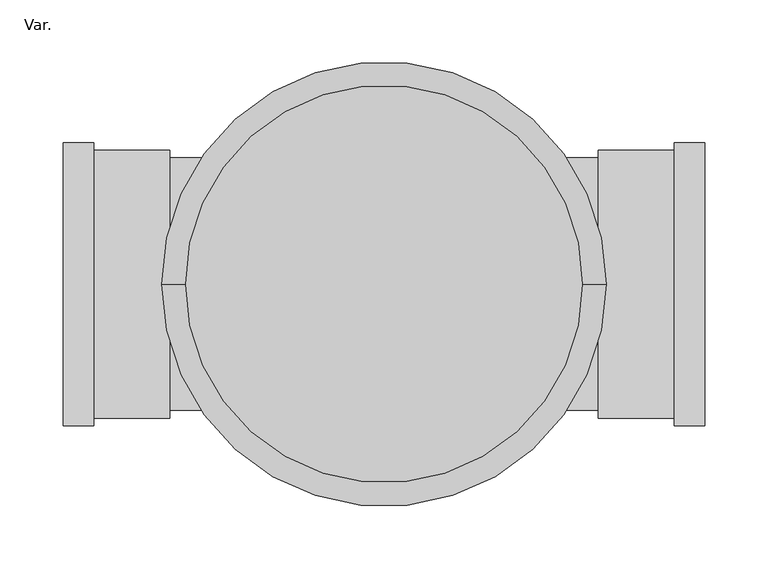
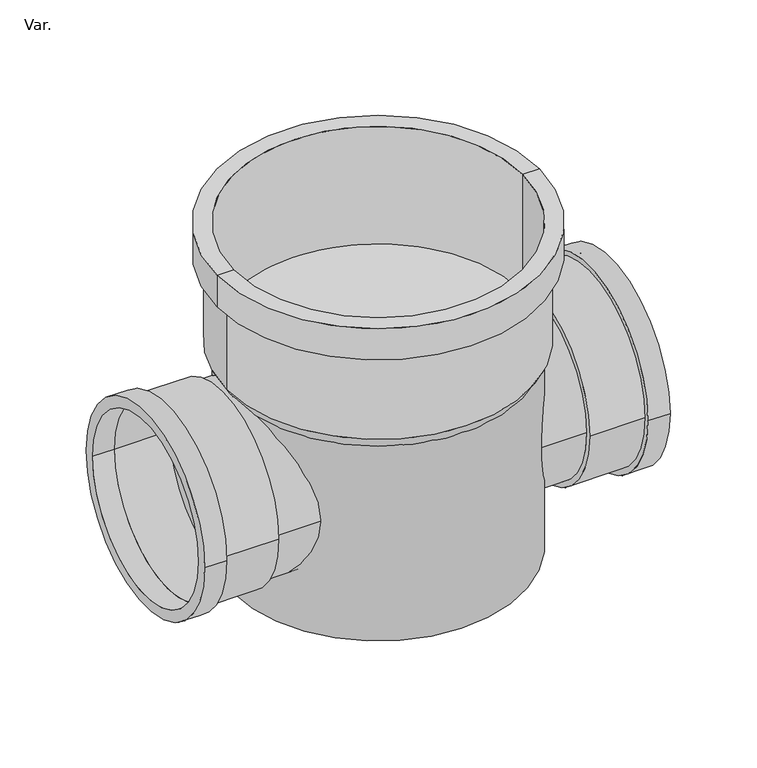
"""IFC4 building model written with IfcOpenShell, lengths in millimetres: pipe fitting geometry, NLRS-90-PIF_Wavin PVC Buitenriolering Inspectieput 315 : Var.."""

from ifc_helpers import new_model, si_unit, point, frame, frame_2d, origin, origin_with_axes, origin_2d, place, context, project, spatial, polyline, circle_curve, trimmed, segment, composite_curve, outline, extrude, source, transform, mapped, element, save
from ifc_brep_helpers import plane_surface, cylinder_surface, revolved_surface, advanced_brep


def var_a019f359(model_context):
    return source(origin(), model_context, "Body", "SolidModel", [
        advanced_brep(
        [(157.5, 0.0, 373.0), (-157.5, 0.0, 373.0), (-157.5, 0.0, 224.6632088), (157.5, 0.0, 224.6632088), (175.9, 0.0, 373.0), (-175.9, 0.0, 373.0), (175.9, 0.0, 337.0), (-175.9, 0.0, 337.0), (165.2, 0.0, 337.0), (-165.2, 0.0, 337.0), (165.2, 0.0, 238.0), (-165.2, 0.0, 238.0)],
        [
            (0, 1, circle_curve(frame((0.0, 0.0, 373.0), z_axis=(0.0, 0.0, 1.0), x_axis=(-1.0, 0.0, 0.0)), 157.5)),
            (1, 2),
            (2, 3, circle_curve(frame((0.0, 0.0, 224.6632088), z_axis=(0.0, 0.0, -1.0), x_axis=(-1.0, 0.0, 0.0)), 157.5)),
            (3, 0),
            (1, 0, circle_curve(frame((0.0, 0.0, 373.0), z_axis=(0.0, 0.0, 1.0), x_axis=(-1.0, 0.0, 0.0)), 157.5)),
            (3, 2, circle_curve(frame((0.0, 0.0, 224.6632088), z_axis=(0.0, 0.0, -1.0), x_axis=(-1.0, 0.0, 0.0)), 157.5)),
            (4, 5, circle_curve(frame((0.0, 0.0, 373.0), z_axis=(0.0, 0.0, 1.0), x_axis=(-1.0, 0.0, 0.0)), 175.9)),
            (5, 1),
            (0, 4),
            (5, 4, circle_curve(frame((0.0, 0.0, 373.0), z_axis=(0.0, 0.0, 1.0), x_axis=(-1.0, 0.0, 0.0)), 175.9)),
            (6, 7, circle_curve(frame((0.0, 0.0, 337.0), z_axis=(0.0, 0.0, 1.0), x_axis=(-1.0, 0.0, 0.0)), 175.9)),
            (7, 5),
            (4, 6),
            (7, 6, circle_curve(frame((0.0, 0.0, 337.0), z_axis=(0.0, 0.0, 1.0), x_axis=(-1.0, 0.0, 0.0)), 175.9)),
            (8, 9, circle_curve(frame((0.0, 0.0, 337.0), z_axis=(0.0, 0.0, 1.0), x_axis=(-1.0, 0.0, 0.0)), 165.2)),
            (9, 7),
            (6, 8),
            (9, 8, circle_curve(frame((0.0, 0.0, 337.0), z_axis=(0.0, 0.0, 1.0), x_axis=(-1.0, 0.0, 0.0)), 165.2)),
            (10, 11, circle_curve(frame((0.0, 0.0, 238.0), z_axis=(0.0, 0.0, 1.0), x_axis=(-1.0, 0.0, 0.0)), 165.2)),
            (11, 9),
            (8, 10),
            (11, 10, circle_curve(frame((0.0, 0.0, 238.0), z_axis=(0.0, 0.0, 1.0), x_axis=(-1.0, 0.0, 0.0)), 165.2)),
            (2, 11),
            (10, 3),
        ],
        [
            revolved_surface(polyline([(-157.5, 0.0, 224.66320880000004), (-157.5, 0.0, 373.0)]), (0.0, 0.0, -248.7342508), (0.0, 0.0, -1.0)),
            plane_surface(frame((0.0, 0.0, 373.0), z_axis=(0.0, 0.0, 1.0), x_axis=(-1.0, 0.0, 0.0))),
            cylinder_surface(frame((0.0, 0.0, -248.7342508), z_axis=(0.0, 0.0, -1.0), x_axis=(-1.0, 0.0, 0.0)), 175.9),
            plane_surface(frame((0.0, 0.0, 337.0), z_axis=(0.0, 0.0, -1.0), x_axis=(-1.0, 0.0, 0.0))),
            cylinder_surface(frame((0.0, 0.0, -248.7342508), z_axis=(0.0, 0.0, -1.0), x_axis=(-1.0, 0.0, 0.0)), 165.2),
            revolved_surface(polyline([(-165.2, 0.0, 238.0), (-157.5, 0.0, 224.6632088)]), (0.0, 0.0, -248.7342508), (0.0, 0.0, -1.0)),
        ],
        [
            (0, [[1, 2, 3, 4]]),
            (0, [[5, -4, 6, -2]]),
            (1, [[7, 8, -1, 9]]),
            (1, [[10, -9, -5, -8]]),
            (2, [[11, 12, -7, 13]]),
            (2, [[14, -13, -10, -12]]),
            (3, [[15, 16, -11, 17]]),
            (3, [[18, -17, -14, -16]]),
            (4, [[19, 20, -15, 21]]),
            (4, [[22, -21, -18, -20]]),
            (5, [[-3, 23, -19, 24]]),
            (5, [[-6, -24, -22, -23]]),
        ],
    ),
        extrude(outline(composite_curve([segment(trimmed(circle_curve(frame_2d((0.0, 131.0)), 106.0), [point((-106.0, 131.0))], [point((106.0, 131.0))], False, "CARTESIAN"), True, "CONTINUOUS"), segment(trimmed(circle_curve(frame_2d((0.0, 131.0)), 106.0), [point((106.0, 131.0))], [point((-106.0, 131.0))], False, "CARTESIAN"), True, "CONTINUOUS")], self_intersect=False), holes=[composite_curve([segment(trimmed(circle_curve(frame_2d((0.0, 131.0)), 100.0), [point((-100.0, 131.0))], [point((100.0, 131.0))], True, "CARTESIAN"), True, "CONTINUOUS"), segment(trimmed(circle_curve(frame_2d((0.0, 131.0)), 100.0), [point((100.0, 131.0))], [point((-100.0, 131.0))], True, "CARTESIAN"), True, "CONTINUOUS")], self_intersect=False)]), frame((-229.9428571, 0.0, 0.0), z_axis=(1.0, 0.0, 0.0), x_axis=(0.0, 1.0, 0.0)), (0.0, 0.0, 1.0), 60.1428571),
        extrude(outline(composite_curve([segment(trimmed(circle_curve(frame_2d((0.0, 131.0)), 112.0), [point((-112.0, 131.0))], [point((112.0, 131.0))], False, "CARTESIAN"), True, "CONTINUOUS"), segment(trimmed(circle_curve(frame_2d((0.0, 131.0)), 112.0), [point((112.0, 131.0))], [point((-112.0, 131.0))], False, "CARTESIAN"), True, "CONTINUOUS")], self_intersect=False), holes=[composite_curve([segment(trimmed(circle_curve(frame_2d((0.0, 131.0)), 100.0), [point((-100.0, 131.0))], [point((100.0, 131.0))], True, "CARTESIAN"), True, "CONTINUOUS"), segment(trimmed(circle_curve(frame_2d((0.0, 131.0)), 100.0), [point((100.0, 131.0))], [point((-100.0, 131.0))], True, "CARTESIAN"), True, "CONTINUOUS")], self_intersect=False)]), frame((-254.0, 0.0, 0.0), z_axis=(1.0, 0.0, 0.0), x_axis=(0.0, 1.0, 0.0)), (0.0, 0.0, 1.0), 24.0571429),
        extrude(outline(composite_curve([segment(trimmed(circle_curve(frame_2d((0.0, 131.0)), 100.0), [point((-100.0, 131.0))], [point((100.0, 131.0))], False, "CARTESIAN"), True, "CONTINUOUS"), segment(trimmed(circle_curve(frame_2d((0.0, 131.0)), 100.0), [point((100.0, 131.0))], [point((-100.0, 131.0))], False, "CARTESIAN"), True, "CONTINUOUS")], self_intersect=False)), frame((-169.8, 0.0, 0.0), z_axis=(1.0, 0.0, 0.0), x_axis=(0.0, 1.0, 0.0)), (0.0, 0.0, 1.0), 339.6),
        extrude(outline(composite_curve([segment(trimmed(circle_curve(frame_2d((0.0, 131.0)), 106.0), [point((-106.0, 131.0))], [point((106.0, 131.0))], False, "CARTESIAN"), True, "CONTINUOUS"), segment(trimmed(circle_curve(frame_2d((0.0, 131.0)), 106.0), [point((106.0, 131.0))], [point((-106.0, 131.0))], False, "CARTESIAN"), True, "CONTINUOUS")], self_intersect=False), holes=[composite_curve([segment(trimmed(circle_curve(frame_2d((0.0, 131.0)), 100.0), [point((-100.0, 131.0))], [point((100.0, 131.0))], True, "CARTESIAN"), True, "CONTINUOUS"), segment(trimmed(circle_curve(frame_2d((0.0, 131.0)), 100.0), [point((100.0, 131.0))], [point((-100.0, 131.0))], True, "CARTESIAN"), True, "CONTINUOUS")], self_intersect=False)]), frame((169.8, 0.0, 0.0), z_axis=(1.0, 0.0, 0.0), x_axis=(0.0, 1.0, 0.0)), (0.0, 0.0, 1.0), 60.1428571),
        extrude(outline(composite_curve([segment(trimmed(circle_curve(frame_2d((0.0, 131.0)), 112.0), [point((-112.0, 131.0))], [point((112.0, 131.0))], False, "CARTESIAN"), True, "CONTINUOUS"), segment(trimmed(circle_curve(frame_2d((0.0, 131.0)), 112.0), [point((112.0, 131.0))], [point((-112.0, 131.0))], False, "CARTESIAN"), True, "CONTINUOUS")], self_intersect=False), holes=[composite_curve([segment(trimmed(circle_curve(frame_2d((0.0, 131.0)), 100.0), [point((-100.0, 131.0))], [point((100.0, 131.0))], True, "CARTESIAN"), True, "CONTINUOUS"), segment(trimmed(circle_curve(frame_2d((0.0, 131.0)), 100.0), [point((100.0, 131.0))], [point((-100.0, 131.0))], True, "CARTESIAN"), True, "CONTINUOUS")], self_intersect=False)]), frame((229.9428571, 0.0, 0.0), z_axis=(1.0, 0.0, 0.0), x_axis=(0.0, 1.0, 0.0)), (0.0, 0.0, 1.0), 24.0571429),
        extrude(outline(composite_curve([segment(trimmed(circle_curve(origin_2d(), 157.5), [point((-157.5, 0.0))], [point((157.5, 0.0))], False, "CARTESIAN"), True, "CONTINUOUS"), segment(trimmed(circle_curve(origin_2d(), 157.5), [point((157.5, 0.0))], [point((-157.5, 0.0))], False, "CARTESIAN"), True, "CONTINUOUS")], self_intersect=False)), origin_with_axes(), (0.0, 0.0, 1.0), 238.0),
    ])


if __name__ == "__main__":
    model = new_model("IFC4")
    model_context = context("Model", 3, world=origin())
    ifc_project = project(units=[si_unit("LENGTHUNIT", "METRE", prefix="MILLI")], contexts=[model_context])
    site = spatial("IfcSite", under=ifc_project)
    building = spatial("IfcBuilding", under=site)
    placement = place(None, origin())
    var_shape = var_a019f359(model_context)
    element("IfcPipeFitting", 1, ObjectType="NLRS-90-PIF_Wavin PVC Buitenriolering Inspectieput 315 : Var.", at=placement, inside=building, context=model_context, shape_type="MappedRepresentation", body=[
        mapped(var_shape, transform((0.0, 0.0, 0.0), x_axis=(1.0, 0.0, 0.0), y_axis=(0.0, 1.0, 0.0), z_axis=(0.0, 0.0, 1.0))),
    ])
    save(model, "model.ifc")
